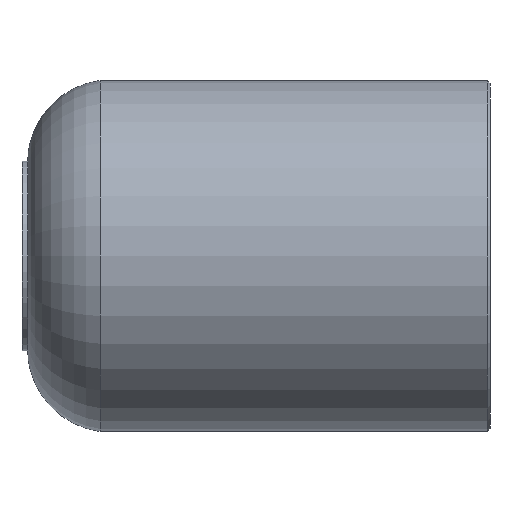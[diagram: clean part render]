
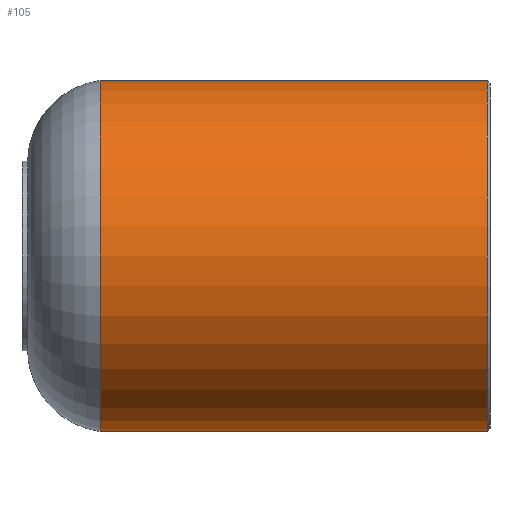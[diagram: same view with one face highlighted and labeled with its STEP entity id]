
A CAD part, front view. The second image highlights one B-rep face of the part: STEP entity #105.
In plain terms, the highlighted cylindrical face has radius 31.5 mm (diameter 63 mm), a full revolution.
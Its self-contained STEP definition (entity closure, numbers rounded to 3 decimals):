
#24=CYLINDRICAL_SURFACE('',#131,31.5);
#32=ORIENTED_EDGE('',*,*,#46,.T.);
#33=ORIENTED_EDGE('',*,*,#45,.F.);
#45=EDGE_CURVE('',#53,#53,#61,.T.);
#46=EDGE_CURVE('',#54,#54,#62,.F.);
#53=VERTEX_POINT('',#188);
#54=VERTEX_POINT('',#191);
#61=CIRCLE('',#130,31.5);
#62=CIRCLE('',#132,31.5);
#72=EDGE_LOOP('',(#32));
#73=EDGE_LOOP('',(#33));
#88=FACE_BOUND('',#72,.T.);
#89=FACE_BOUND('',#73,.T.);
#105=ADVANCED_FACE('',(#88,#89),#24,.T.);
#130=AXIS2_PLACEMENT_3D('',#187,#156,#157);
#131=AXIS2_PLACEMENT_3D('',#189,#158,#159);
#132=AXIS2_PLACEMENT_3D('',#190,#160,#161);
#156=DIRECTION('',(-1.,0.,0.));
#157=DIRECTION('',(0.,0.,1.));
#158=DIRECTION('',(-1.,0.,0.));
#159=DIRECTION('',(0.,0.,1.));
#160=DIRECTION('',(1.,0.,0.));
#161=DIRECTION('',(0.,0.,-1.));
#187=CARTESIAN_POINT('',(-35.,0.,0.));
#188=CARTESIAN_POINT('',(-35.,0.,31.5));
#189=CARTESIAN_POINT('',(-38.5,0.,0.));
#190=CARTESIAN_POINT('',(34.5,0.,0.));
#191=CARTESIAN_POINT('',(34.5,0.,-31.5));
